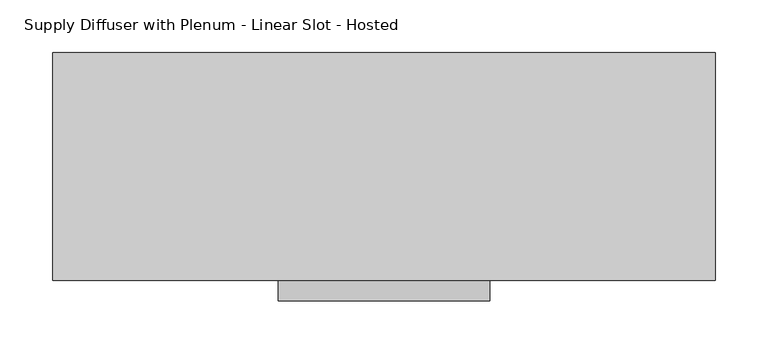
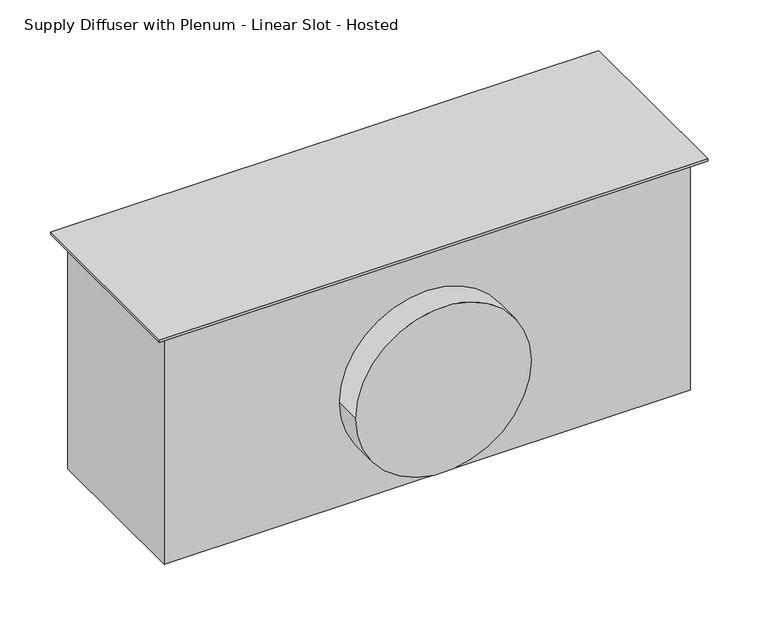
"""IFC4 building model written with IfcOpenShell, lengths in millimetres: air terminal geometry."""

from ifc_helpers import new_model, si_unit, point, frame, frame_2d, origin, origin_with_axes, place, context, project, spatial, polyline, circle_curve, trimmed, segment, composite_curve, outline, extrude, source, transform, mapped, element, save


def supply_diffuser_with_plenum_linear_slot_hosted_2b730595(model_context):
    return source(origin(), model_context, "Body", "SweptSolid", [
        extrude(outline(composite_curve([segment(trimmed(circle_curve(frame_2d((-154.4, 0.0)), 100.0), [point((-154.4, -100.0))], [point((-154.4, 100.0))], False, "CARTESIAN"), True, "CONTINUOUS"), segment(trimmed(circle_curve(frame_2d((-154.4, 0.0)), 100.0), [point((-154.4, 100.0))], [point((-154.4, -100.0))], False, "CARTESIAN"), True, "CONTINUOUS")], self_intersect=False)), frame((0.0, -127.0, 0.0), z_axis=(0.0, 1.0, 0.0), x_axis=(0.0, 0.0, 1.0)), (0.0, 0.0, 1.0), 32.0),
        extrude(outline(polyline([(312.5, 107.5), (312.5, -107.5), (-312.5, -107.5), (-312.5, 107.5), (312.5, 107.5)])), origin_with_axes(), (0.0, 0.0, 1.0), 3.175),
        extrude(outline(polyline([(300.0, 95.0), (300.0, -95.0), (-300.0, -95.0), (-300.0, 95.0), (300.0, 95.0)])), frame((0.0, 0.0, -279.4), z_axis=(0.0, 0.0, 1.0), x_axis=(1.0, 0.0, 0.0)), (0.0, 0.0, 1.0), 279.4),
    ])


if __name__ == "__main__":
    model = new_model("IFC4")
    model_context = context("Model", 3, world=origin())
    ifc_project = project(units=[si_unit("LENGTHUNIT", "METRE", prefix="MILLI")], contexts=[model_context])
    site = spatial("IfcSite", under=ifc_project)
    building = spatial("IfcBuilding", under=site)
    placement = place(None, origin())
    supply_diffuser_with_plenum_linear_slot_hosted_shape = supply_diffuser_with_plenum_linear_slot_hosted_2b730595(model_context)
    element("IfcAirTerminal", 1, ObjectType="Supply Diffuser with Plenum - Linear Slot - Hosted : 24\" x 8\"-200 In Inlet  4-Slot", at=placement, inside=building, context=model_context, shape_type="MappedRepresentation", body=[
        mapped(supply_diffuser_with_plenum_linear_slot_hosted_shape, transform((0.0, 0.0, 0.0), x_axis=(1.0, 0.0, 0.0), y_axis=(0.0, 1.0, 0.0), z_axis=(0.0, 0.0, 1.0))),
    ])
    save(model, "model.ifc")
